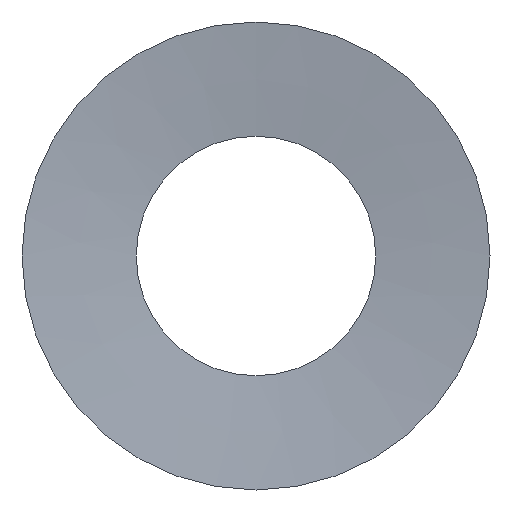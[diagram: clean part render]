
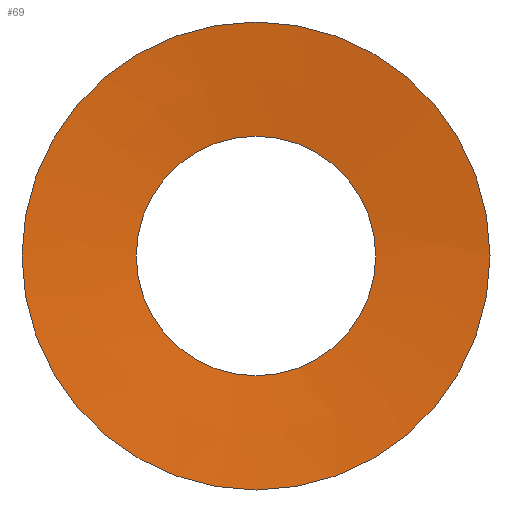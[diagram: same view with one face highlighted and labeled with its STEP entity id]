
A CAD part, front view. The second image highlights one B-rep face of the part: STEP entity #69.
In plain terms, the highlighted conical face has half-angle 83.513 degrees and reference radius 47.25 mm.
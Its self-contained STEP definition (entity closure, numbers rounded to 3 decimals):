
#19=FACE_OUTER_BOUND('',#23,.T.);
#23=EDGE_LOOP('',(#57,#58,#59,#60));
#27=LINE('',#137,#31);
#31=VECTOR('',#118,47.25);
#35=CIRCLE('',#98,32.);
#36=CIRCLE('',#100,62.5);
#39=VERTEX_POINT('',#132);
#40=VERTEX_POINT('',#136);
#45=EDGE_CURVE('',#39,#39,#35,.T.);
#46=EDGE_CURVE('',#39,#40,#27,.T.);
#47=EDGE_CURVE('',#40,#40,#36,.T.);
#57=ORIENTED_EDGE('',*,*,#45,.T.);
#58=ORIENTED_EDGE('',*,*,#46,.T.);
#59=ORIENTED_EDGE('',*,*,#47,.F.);
#60=ORIENTED_EDGE('',*,*,#46,.F.);
#66=CONICAL_SURFACE('',#99,47.25,1.458);
#69=ADVANCED_FACE('',(#19),#66,.F.);
#98=AXIS2_PLACEMENT_3D('',#134,#114,#115);
#99=AXIS2_PLACEMENT_3D('',#135,#116,#117);
#100=AXIS2_PLACEMENT_3D('',#138,#119,#120);
#114=DIRECTION('center_axis',(0.,1.,0.));
#115=DIRECTION('ref_axis',(1.,0.,0.));
#116=DIRECTION('center_axis',(0.,-1.,0.));
#117=DIRECTION('ref_axis',(0.,0.,-1.));
#118=DIRECTION('',(0.,-0.113,0.994));
#119=DIRECTION('center_axis',(0.,1.,0.));
#120=DIRECTION('ref_axis',(1.,0.,0.));
#132=CARTESIAN_POINT('',(0.,3.468,32.));
#134=CARTESIAN_POINT('Origin',(0.,3.468,0.));
#135=CARTESIAN_POINT('Origin',(0.,1.734,0.));
#136=CARTESIAN_POINT('',(0.,0.,62.5));
#137=CARTESIAN_POINT('',(0.,1.734,47.25));
#138=CARTESIAN_POINT('Origin',(0.,0.,0.));
